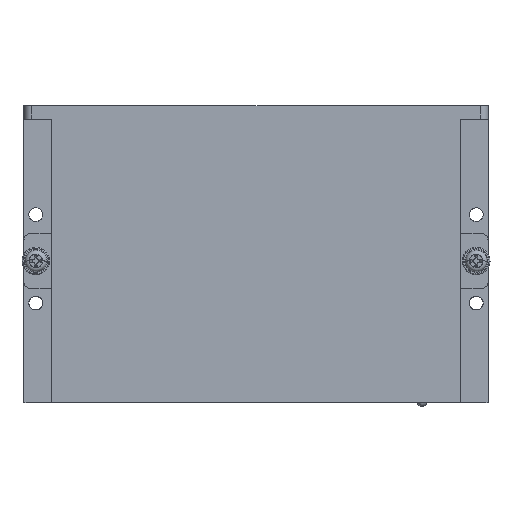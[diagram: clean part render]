
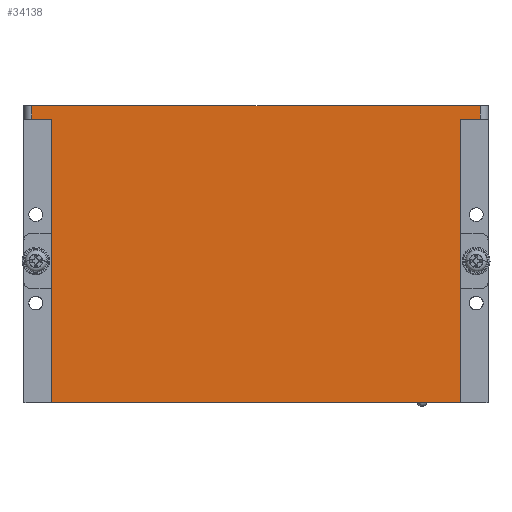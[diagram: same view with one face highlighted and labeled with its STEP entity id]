
A CAD part, top view. The second image highlights one B-rep face of the part: STEP entity #34138.
In plain terms, the highlighted planar face has unit normal (0, 0, 1).
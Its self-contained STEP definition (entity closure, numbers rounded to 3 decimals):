
#365 = DIRECTION ( 'NONE',  ( 0., 1., 0. ) ) ;
#623 = VERTEX_POINT ( 'NONE', #19979 ) ;
#2002 = CARTESIAN_POINT ( 'NONE',  ( -0.006, 75.5, 22. ) ) ;
#3658 = EDGE_LOOP ( 'NONE', ( #44934, #27835, #16771, #26311, #28521, #56334, #55476, #52308 ) ) ;
#5585 = EDGE_CURVE ( 'NONE', #30773, #48260, #27192, .T. ) ;
#6929 = VECTOR ( 'NONE', #59188, 1000. ) ;
#7222 = EDGE_CURVE ( 'NONE', #19214, #30773, #25380, .T. ) ;
#8809 = CARTESIAN_POINT ( 'NONE',  ( -57., 72., 22. ) ) ;
#9672 = EDGE_CURVE ( 'NONE', #61019, #33820, #52256, .T. ) ;
#12065 = CARTESIAN_POINT ( 'NONE',  ( 57., 72., 22. ) ) ;
#14787 = LINE ( 'NONE', #17780, #25864 ) ;
#15645 = CARTESIAN_POINT ( 'NONE',  ( -52., 36., 22. ) ) ;
#16029 = EDGE_CURVE ( 'NONE', #19214, #61019, #32261, .T. ) ;
#16136 = VECTOR ( 'NONE', #49404, 1000. ) ;
#16248 = CARTESIAN_POINT ( 'NONE',  ( 52., 0., 22. ) ) ;
#16771 = ORIENTED_EDGE ( 'NONE', *, *, #51955, .T. ) ;
#17780 = CARTESIAN_POINT ( 'NONE',  ( -57., 37.75, 22. ) ) ;
#18167 = DIRECTION ( 'NONE',  ( -1., 0., 0. ) ) ;
#19214 = VERTEX_POINT ( 'NONE', #16248 ) ;
#19724 = VECTOR ( 'NONE', #40889, 1000. ) ;
#19979 = CARTESIAN_POINT ( 'NONE',  ( 57., 75.5, 22. ) ) ;
#21004 = FACE_OUTER_BOUND ( 'NONE', #3658, .T. ) ;
#23859 = VERTEX_POINT ( 'NONE', #60453 ) ;
#25380 = LINE ( 'NONE', #29718, #37233 ) ;
#25864 = VECTOR ( 'NONE', #55490, 1000. ) ;
#26311 = ORIENTED_EDGE ( 'NONE', *, *, #42918, .F. ) ;
#27192 = LINE ( 'NONE', #15645, #52291 ) ;
#27655 = VECTOR ( 'NONE', #49176, 1000. ) ;
#27835 = ORIENTED_EDGE ( 'NONE', *, *, #9672, .T. ) ;
#28521 = ORIENTED_EDGE ( 'NONE', *, *, #48787, .T. ) ;
#28535 = CARTESIAN_POINT ( 'NONE',  ( -52., 0., 22. ) ) ;
#28560 = DIRECTION ( 'NONE',  ( 0., 0., 1. ) ) ;
#29718 = CARTESIAN_POINT ( 'NONE',  ( -60.18, 0., 22. ) ) ;
#30773 = VERTEX_POINT ( 'NONE', #28535 ) ;
#31443 = AXIS2_PLACEMENT_3D ( 'NONE', #56754, #28560, #365 ) ;
#32022 = LINE ( 'NONE', #54481, #6929 ) ;
#32261 = LINE ( 'NONE', #54958, #19724 ) ;
#33820 = VERTEX_POINT ( 'NONE', #12065 ) ;
#34138 = ADVANCED_FACE ( 'NONE', ( #21004 ), #37798, .T. ) ;
#36071 = EDGE_CURVE ( 'NONE', #48260, #39366, #53401, .T. ) ;
#37233 = VECTOR ( 'NONE', #53393, 1000. ) ;
#37427 = CARTESIAN_POINT ( 'NONE',  ( -52., 72., 22. ) ) ;
#37798 = PLANE ( 'NONE',  #31443 ) ;
#39098 = DIRECTION ( 'NONE',  ( 0., 1., 0. ) ) ;
#39366 = VERTEX_POINT ( 'NONE', #8809 ) ;
#40148 = LINE ( 'NONE', #2002, #27655 ) ;
#40795 = VECTOR ( 'NONE', #18167, 1000. ) ;
#40889 = DIRECTION ( 'NONE',  ( 0., 1., 0. ) ) ;
#41618 = CARTESIAN_POINT ( 'NONE',  ( -0.59, 72., 22. ) ) ;
#42918 = EDGE_CURVE ( 'NONE', #23859, #623, #40148, .T. ) ;
#44812 = CARTESIAN_POINT ( 'NONE',  ( 0., 72., 22. ) ) ;
#44934 = ORIENTED_EDGE ( 'NONE', *, *, #16029, .T. ) ;
#48260 = VERTEX_POINT ( 'NONE', #37427 ) ;
#48787 = EDGE_CURVE ( 'NONE', #23859, #39366, #14787, .T. ) ;
#49176 = DIRECTION ( 'NONE',  ( 1., 0., 0. ) ) ;
#49404 = DIRECTION ( 'NONE',  ( 1., 0., 0. ) ) ;
#51955 = EDGE_CURVE ( 'NONE', #33820, #623, #32022, .T. ) ;
#52002 = CARTESIAN_POINT ( 'NONE',  ( 52., 72., 22. ) ) ;
#52256 = LINE ( 'NONE', #44812, #16136 ) ;
#52291 = VECTOR ( 'NONE', #39098, 1000. ) ;
#52308 = ORIENTED_EDGE ( 'NONE', *, *, #7222, .F. ) ;
#53393 = DIRECTION ( 'NONE',  ( -1., 0., 0. ) ) ;
#53401 = LINE ( 'NONE', #41618, #40795 ) ;
#54481 = CARTESIAN_POINT ( 'NONE',  ( 57., 37.75, 22. ) ) ;
#54958 = CARTESIAN_POINT ( 'NONE',  ( 52., 37.75, 22. ) ) ;
#55476 = ORIENTED_EDGE ( 'NONE', *, *, #5585, .F. ) ;
#55490 = DIRECTION ( 'NONE',  ( 0., -1., 0. ) ) ;
#56334 = ORIENTED_EDGE ( 'NONE', *, *, #36071, .F. ) ;
#56754 = CARTESIAN_POINT ( 'NONE',  ( 57., 0., 22. ) ) ;
#59188 = DIRECTION ( 'NONE',  ( 0., 1., 0. ) ) ;
#60453 = CARTESIAN_POINT ( 'NONE',  ( -57., 75.5, 22. ) ) ;
#61019 = VERTEX_POINT ( 'NONE', #52002 ) ;
